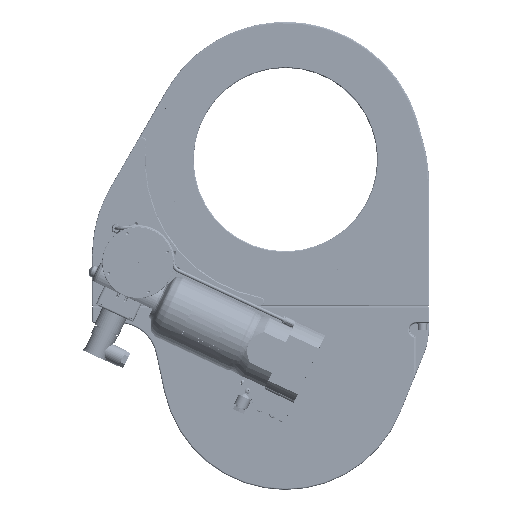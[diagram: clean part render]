
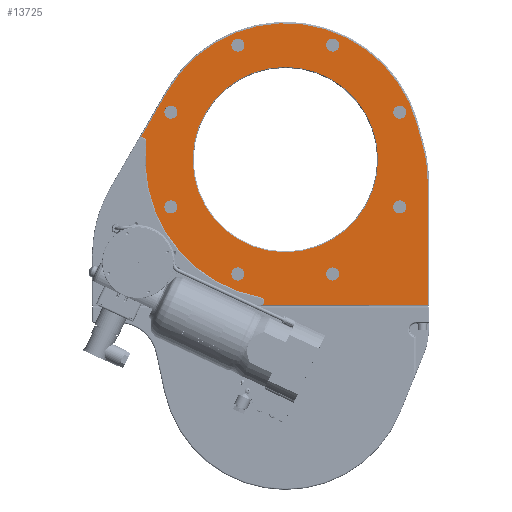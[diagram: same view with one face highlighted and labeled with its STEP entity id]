
A CAD part, top view. The second image highlights one B-rep face of the part: STEP entity #13725.
In plain terms, the highlighted planar face has unit normal (0, 0, 1).
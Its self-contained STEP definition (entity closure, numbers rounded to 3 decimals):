
#13725=ADVANCED_FACE('',(#25753,#25754,#25755,#25756,#25757,#25758,#25759,
#25760,#25761,#25762),#17125,.F.);
#17125=PLANE('',#62739);
#18838=LINE('',#83314,#22229);
#18839=LINE('',#83319,#22230);
#18840=LINE('',#83323,#22231);
#18841=LINE('',#83331,#22232);
#22229=VECTOR('',#68420,1.);
#22230=VECTOR('',#68423,1.);
#22231=VECTOR('',#68426,1.);
#22232=VECTOR('',#68433,1.);
#25753=FACE_BOUND('',#28485,.T.);
#25754=FACE_BOUND('',#28486,.T.);
#25755=FACE_BOUND('',#28487,.T.);
#25756=FACE_BOUND('',#28488,.T.);
#25757=FACE_BOUND('',#28489,.T.);
#25758=FACE_BOUND('',#28490,.T.);
#25759=FACE_BOUND('',#28491,.T.);
#25760=FACE_BOUND('',#28492,.T.);
#25761=FACE_BOUND('',#28493,.T.);
#25762=FACE_BOUND('',#28494,.T.);
#28485=EDGE_LOOP('',(#33359));
#28486=EDGE_LOOP('',(#33360));
#28487=EDGE_LOOP('',(#33361));
#28488=EDGE_LOOP('',(#33362));
#28489=EDGE_LOOP('',(#33363));
#28490=EDGE_LOOP('',(#33364,#33365,#33366,#33367,#33368,#33369,#33370,#33371,
#33372));
#28491=EDGE_LOOP('',(#33373));
#28492=EDGE_LOOP('',(#33374));
#28493=EDGE_LOOP('',(#33375));
#28494=EDGE_LOOP('',(#33376));
#33359=ORIENTED_EDGE('',*,*,#53072,.F.);
#33360=ORIENTED_EDGE('',*,*,#53073,.F.);
#33361=ORIENTED_EDGE('',*,*,#53074,.F.);
#33362=ORIENTED_EDGE('',*,*,#53075,.F.);
#33363=ORIENTED_EDGE('',*,*,#53076,.F.);
#33364=ORIENTED_EDGE('',*,*,#53077,.F.);
#33365=ORIENTED_EDGE('',*,*,#53078,.F.);
#33366=ORIENTED_EDGE('',*,*,#53079,.F.);
#33367=ORIENTED_EDGE('',*,*,#53080,.F.);
#33368=ORIENTED_EDGE('',*,*,#53081,.F.);
#33369=ORIENTED_EDGE('',*,*,#53082,.F.);
#33370=ORIENTED_EDGE('',*,*,#53083,.F.);
#33371=ORIENTED_EDGE('',*,*,#53084,.F.);
#33372=ORIENTED_EDGE('',*,*,#53085,.F.);
#33373=ORIENTED_EDGE('',*,*,#53086,.F.);
#33374=ORIENTED_EDGE('',*,*,#53087,.F.);
#33375=ORIENTED_EDGE('',*,*,#53088,.F.);
#33376=ORIENTED_EDGE('',*,*,#53089,.F.);
#47833=VERTEX_POINT('',#83305);
#47834=VERTEX_POINT('',#83307);
#47835=VERTEX_POINT('',#83309);
#47836=VERTEX_POINT('',#83311);
#47837=VERTEX_POINT('',#83313);
#47838=VERTEX_POINT('',#83315);
#47839=VERTEX_POINT('',#83316);
#47840=VERTEX_POINT('',#83318);
#47841=VERTEX_POINT('',#83320);
#47842=VERTEX_POINT('',#83322);
#47843=VERTEX_POINT('',#83324);
#47844=VERTEX_POINT('',#83326);
#47845=VERTEX_POINT('',#83328);
#47846=VERTEX_POINT('',#83330);
#47847=VERTEX_POINT('',#83333);
#47848=VERTEX_POINT('',#83335);
#47849=VERTEX_POINT('',#83337);
#47850=VERTEX_POINT('',#83339);
#53072=EDGE_CURVE('',#47833,#47833,#60309,.T.);
#53073=EDGE_CURVE('',#47834,#47834,#60310,.T.);
#53074=EDGE_CURVE('',#47835,#47835,#60311,.T.);
#53075=EDGE_CURVE('',#47836,#47836,#60312,.T.);
#53076=EDGE_CURVE('',#47837,#47837,#60313,.T.);
#53077=EDGE_CURVE('',#47838,#47839,#18838,.T.);
#53078=EDGE_CURVE('',#47840,#47838,#60314,.T.);
#53079=EDGE_CURVE('',#47841,#47840,#18839,.T.);
#53080=EDGE_CURVE('',#47842,#47841,#60315,.T.);
#53081=EDGE_CURVE('',#47843,#47842,#18840,.T.);
#53082=EDGE_CURVE('',#47844,#47843,#60316,.T.);
#53083=EDGE_CURVE('',#47845,#47844,#60317,.T.);
#53084=EDGE_CURVE('',#47846,#47845,#60318,.T.);
#53085=EDGE_CURVE('',#47839,#47846,#18841,.T.);
#53086=EDGE_CURVE('',#47847,#47847,#60319,.T.);
#53087=EDGE_CURVE('',#47848,#47848,#60320,.T.);
#53088=EDGE_CURVE('',#47849,#47849,#60321,.T.);
#53089=EDGE_CURVE('',#47850,#47850,#60322,.T.);
#60309=CIRCLE('',#62725,7.135);
#60310=CIRCLE('',#62726,7.135);
#60311=CIRCLE('',#62727,7.135);
#60312=CIRCLE('',#62728,7.135);
#60313=CIRCLE('',#62729,101.);
#60314=CIRCLE('',#62730,148.5);
#60315=CIRCLE('',#62731,148.5);
#60316=CIRCLE('',#62732,5.);
#60317=CIRCLE('',#62733,152.5);
#60318=CIRCLE('',#62734,5.);
#60319=CIRCLE('',#62735,7.135);
#60320=CIRCLE('',#62736,7.135);
#60321=CIRCLE('',#62737,7.135);
#60322=CIRCLE('',#62738,7.135);
#62725=AXIS2_PLACEMENT_3D('',#83304,#68410,#68411);
#62726=AXIS2_PLACEMENT_3D('',#83306,#68412,#68413);
#62727=AXIS2_PLACEMENT_3D('',#83308,#68414,#68415);
#62728=AXIS2_PLACEMENT_3D('',#83310,#68416,#68417);
#62729=AXIS2_PLACEMENT_3D('',#83312,#68418,#68419);
#62730=AXIS2_PLACEMENT_3D('',#83317,#68421,#68422);
#62731=AXIS2_PLACEMENT_3D('',#83321,#68424,#68425);
#62732=AXIS2_PLACEMENT_3D('',#83325,#68427,#68428);
#62733=AXIS2_PLACEMENT_3D('',#83327,#68429,#68430);
#62734=AXIS2_PLACEMENT_3D('',#83329,#68431,#68432);
#62735=AXIS2_PLACEMENT_3D('',#83332,#68434,#68435);
#62736=AXIS2_PLACEMENT_3D('',#83334,#68436,#68437);
#62737=AXIS2_PLACEMENT_3D('',#83336,#68438,#68439);
#62738=AXIS2_PLACEMENT_3D('',#83338,#68440,#68441);
#62739=AXIS2_PLACEMENT_3D('',#83340,#68442,#68443);
#68410=DIRECTION('',(0.,0.,1.));
#68411=DIRECTION('',(-0.707,-0.707,0.));
#68412=DIRECTION('',(0.,0.,1.));
#68413=DIRECTION('',(-0.707,0.707,0.));
#68414=DIRECTION('',(0.,0.,1.));
#68415=DIRECTION('',(0.707,0.707,0.));
#68416=DIRECTION('',(0.,0.,1.));
#68417=DIRECTION('',(0.707,-0.707,0.));
#68418=DIRECTION('',(0.,0.,1.));
#68419=DIRECTION('',(0.,1.,0.));
#68420=DIRECTION('',(0.,-1.,0.));
#68421=DIRECTION('',(0.,0.,-1.));
#68422=DIRECTION('',(0.966,0.259,0.));
#68423=DIRECTION('',(0.259,-0.966,0.));
#68424=DIRECTION('',(0.,0.,-1.));
#68425=DIRECTION('',(-0.866,0.5,0.));
#68426=DIRECTION('',(0.5,0.866,0.));
#68427=DIRECTION('',(0.,0.,1.));
#68428=DIRECTION('',(0.993,-0.122,0.));
#68429=DIRECTION('',(0.,0.,-1.));
#68430=DIRECTION('',(-0.177,-0.984,0.));
#68431=DIRECTION('',(0.,0.,1.));
#68432=DIRECTION('',(0.714,-0.7,0.));
#68433=DIRECTION('',(-1.,0.,0.));
#68434=DIRECTION('',(0.,0.,1.));
#68435=DIRECTION('',(1.,0.,0.));
#68436=DIRECTION('',(0.,0.,1.));
#68437=DIRECTION('',(0.,1.,0.));
#68438=DIRECTION('',(0.,0.,1.));
#68439=DIRECTION('',(-1.,0.,0.));
#68440=DIRECTION('',(0.,0.,1.));
#68441=DIRECTION('',(0.,-1.,0.));
#68442=DIRECTION('',(0.,0.,-1.));
#68443=DIRECTION('',(1.,0.,0.));
#83304=CARTESIAN_POINT('',(51.662,124.724,88.));
#83305=CARTESIAN_POINT('',(46.617,119.679,88.));
#83306=CARTESIAN_POINT('',(124.724,-51.662,88.));
#83307=CARTESIAN_POINT('',(119.679,-46.617,88.));
#83308=CARTESIAN_POINT('',(-51.662,-124.724,88.));
#83309=CARTESIAN_POINT('',(-46.617,-119.679,88.));
#83310=CARTESIAN_POINT('',(-124.724,51.662,88.));
#83311=CARTESIAN_POINT('',(-119.679,46.617,88.));
#83312=CARTESIAN_POINT('',(0.,0.,88.));
#83313=CARTESIAN_POINT('',(0.,101.,88.));
#83314=CARTESIAN_POINT('',(155.,-24.258,88.));
#83315=CARTESIAN_POINT('',(155.,-24.258,88.));
#83316=CARTESIAN_POINT('',(155.,-158.5,88.));
#83317=CARTESIAN_POINT('',(6.5,-24.258,88.));
#83318=CARTESIAN_POINT('',(149.94,14.176,88.));
#83319=CARTESIAN_POINT('',(143.44,38.435,88.));
#83320=CARTESIAN_POINT('',(143.44,38.435,88.));
#83321=CARTESIAN_POINT('',(0.,0.,88.));
#83322=CARTESIAN_POINT('',(-128.605,74.25,88.));
#83323=CARTESIAN_POINT('',(-157.565,24.089,88.));
#83324=CARTESIAN_POINT('',(-157.565,24.089,88.));
#83325=CARTESIAN_POINT('',(-156.32,19.246,88.));
#83326=CARTESIAN_POINT('',(-151.357,18.635,88.));
#83327=CARTESIAN_POINT('',(0.,0.,
88.));
#83328=CARTESIAN_POINT('',(-27.064,-150.079,88.));
#83329=CARTESIAN_POINT('',(-27.951,-155.,88.));
#83330=CARTESIAN_POINT('',(-24.38,-158.5,88.));
#83331=CARTESIAN_POINT('',(155.,-158.5,88.));
#83332=CARTESIAN_POINT('',(-124.724,-51.662,88.));
#83333=CARTESIAN_POINT('',(-117.589,-51.662,88.));
#83334=CARTESIAN_POINT('',(51.662,-124.724,88.));
#83335=CARTESIAN_POINT('',(51.662,-117.589,88.));
#83336=CARTESIAN_POINT('',(124.724,51.662,88.));
#83337=CARTESIAN_POINT('',(117.589,51.662,88.));
#83338=CARTESIAN_POINT('',(-51.662,124.724,88.));
#83339=CARTESIAN_POINT('',(-51.662,117.589,88.));
#83340=CARTESIAN_POINT('',(-161.65,151.,88.));
